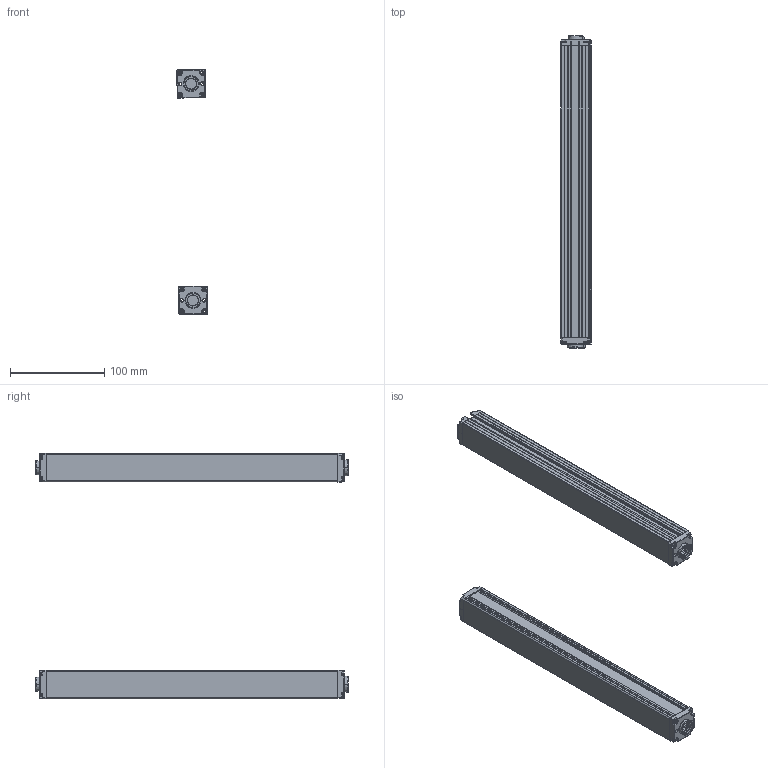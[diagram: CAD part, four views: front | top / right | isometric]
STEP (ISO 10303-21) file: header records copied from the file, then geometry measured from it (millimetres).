
FILE_DESCRIPTION (( 'STEP AP203' ), '1' );
FILE_NAME ('ZDA0840-310.STEP', '2022-08-31T06:44:05', ( 'Windows 蚚誧' ), ( 'Organization' ), 'SwSTEP 2.0', 'SolidWorks 2020', '' );
FILE_SCHEMA (( 'CONFIG_CONTROL_DESIGN' ));
Length unit declared in the file: millimetre
Products named in the file (5): 錨璃8; 錨璃8 - 萵掛 (2); 錨璃10; 錨璃1; ZDA0840-310
Assembly tree (8 placements, depth 2):
  ZDA0840-310
    錨璃1  x2
    錨璃8  x2
    錨璃8 - 萵掛 (2)  x2
    錨璃10  x2
Bounding box: 32.36 x 331.4 x 260.35 mm (x, y, z)
Volume: 204875.5 mm3; surface area: 219065.3 mm2
Topology: 8 solids, 8 shells, 1032 faces, 2690 edges, 1668 vertices
Faces by surface type: plane 464, cylinder 310, cone 120, bspline 58, torus 48, sphere 32
Entity records: 17901 total; most frequent: CARTESIAN_POINT 4731, ORIENTED_EDGE 2666, DIRECTION 2616, EDGE_CURVE 1333, AXIS2_PLACEMENT_3D 894, VERTEX_POINT 834, LINE 828, VECTOR 828
